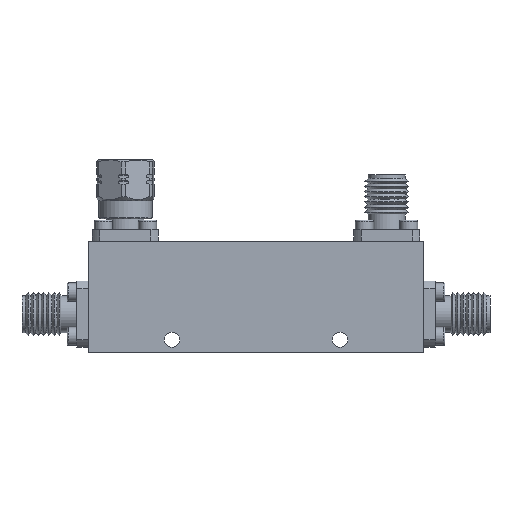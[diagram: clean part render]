
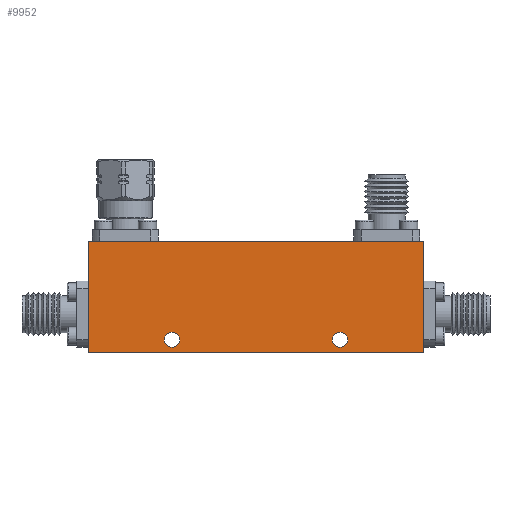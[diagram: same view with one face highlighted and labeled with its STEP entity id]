
A CAD part, front view. The second image highlights one B-rep face of the part: STEP entity #9952.
In plain terms, the highlighted planar face has unit normal (0, -1, 0).
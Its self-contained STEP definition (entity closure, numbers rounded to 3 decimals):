
#778=CIRCLE('',#10108,1.1);
#780=CIRCLE('',#10111,1.1);
#2501=ORIENTED_EDGE('',*,*,#2744,.T.);
#2502=ORIENTED_EDGE('',*,*,#2725,.T.);
#2503=ORIENTED_EDGE('',*,*,#2714,.T.);
#2504=ORIENTED_EDGE('',*,*,#2760,.T.);
#2505=ORIENTED_EDGE('',*,*,#2758,.F.);
#2506=ORIENTED_EDGE('',*,*,#2756,.F.);
#2714=EDGE_CURVE('',#3527,#3526,#4162,.T.);
#2725=EDGE_CURVE('',#3537,#3527,#4169,.T.);
#2744=EDGE_CURVE('',#3555,#3537,#4180,.T.);
#2756=EDGE_CURVE('',#3566,#3566,#778,.T.);
#2758=EDGE_CURVE('',#3568,#3568,#780,.T.);
#2760=EDGE_CURVE('',#3526,#3555,#4188,.T.);
#3526=VERTEX_POINT('',#12755);
#3527=VERTEX_POINT('',#12757);
#3537=VERTEX_POINT('',#12779);
#3555=VERTEX_POINT('',#12817);
#3566=VERTEX_POINT('',#12841);
#3568=VERTEX_POINT('',#12846);
#4162=LINE('',#12756,#4490);
#4169=LINE('',#12778,#4497);
#4180=LINE('',#12816,#4508);
#4188=LINE('',#12850,#4516);
#4490=VECTOR('',#10870,1000.);
#4497=VECTOR('',#10887,1000.);
#4508=VECTOR('',#10916,1000.);
#4516=VECTOR('',#10948,1000.);
#5316=EDGE_LOOP('',(#2501,#2502,#2503,#2504));
#5317=EDGE_LOOP('',(#2505));
#5318=EDGE_LOOP('',(#2506));
#6040=FACE_BOUND('',#5316,.T.);
#6041=FACE_BOUND('',#5317,.T.);
#6042=FACE_BOUND('',#5318,.T.);
#6406=PLANE('',#10657);
#9952=ADVANCED_FACE('',(#6040,#6041,#6042),#6406,.T.);
#10108=AXIS2_PLACEMENT_3D('',#12840,#10935,#10936);
#10111=AXIS2_PLACEMENT_3D('',#12845,#10941,#10942);
#10657=AXIS2_PLACEMENT_3D('',#14819,#12335,#12336);
#10870=DIRECTION('',(0.,0.,-1.));
#10887=DIRECTION('',(-1.,0.,0.));
#10916=DIRECTION('',(0.,0.,1.));
#10935=DIRECTION('',(0.,-1.,0.));
#10936=DIRECTION('',(0.,0.,-1.));
#10941=DIRECTION('',(0.,-1.,0.));
#10942=DIRECTION('',(0.,0.,-1.));
#10948=DIRECTION('',(1.,0.,0.));
#12335=DIRECTION('',(0.,-1.,0.));
#12336=DIRECTION('',(0.,0.,-1.));
#12755=CARTESIAN_POINT('',(-18.298,4.726,-8.));
#12756=CARTESIAN_POINT('',(-18.298,4.726,8.));
#12757=CARTESIAN_POINT('',(-18.298,4.726,8.));
#12778=CARTESIAN_POINT('',(30.002,4.726,8.));
#12779=CARTESIAN_POINT('',(30.002,4.726,8.));
#12816=CARTESIAN_POINT('',(30.002,4.726,-8.));
#12817=CARTESIAN_POINT('',(30.002,4.726,-8.));
#12840=CARTESIAN_POINT('',(17.927,4.726,-6.2));
#12841=CARTESIAN_POINT('',(17.927,4.726,-7.3));
#12845=CARTESIAN_POINT('',(-6.223,4.726,-6.2));
#12846=CARTESIAN_POINT('',(-6.223,4.726,-7.3));
#12850=CARTESIAN_POINT('',(-18.298,4.726,-8.));
#14819=CARTESIAN_POINT('',(5.852,4.726,0.));
